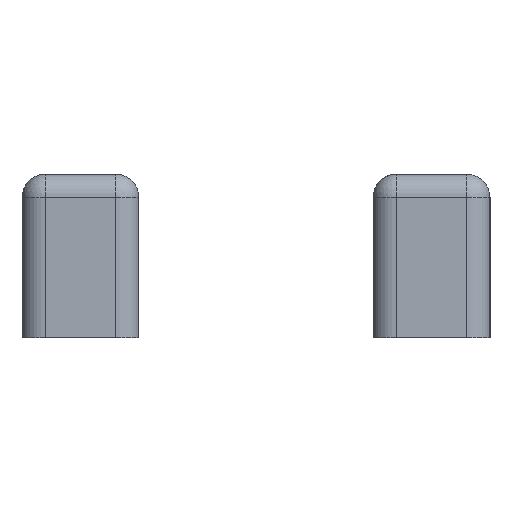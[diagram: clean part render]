
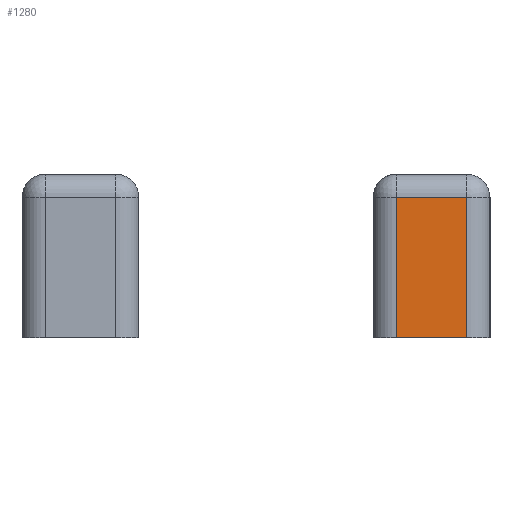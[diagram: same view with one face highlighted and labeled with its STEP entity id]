
A CAD part, left-side view. The second image highlights one B-rep face of the part: STEP entity #1280.
In plain terms, the highlighted planar face has unit normal (-1, 0, 0).
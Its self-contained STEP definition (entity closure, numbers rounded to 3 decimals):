
#50=PLANE('',#1419);
#94=LINE('',#2045,#190);
#107=LINE('',#2146,#203);
#109=LINE('',#2149,#205);
#110=LINE('',#2151,#206);
#190=VECTOR('',#1617,10.);
#203=VECTOR('',#1682,10.);
#205=VECTOR('',#1686,10.);
#206=VECTOR('',#1689,10.);
#332=FACE_OUTER_BOUND('',#414,.T.);
#414=EDGE_LOOP('',(#1037,#1038,#1039,#1040));
#579=VERTEX_POINT('',#2042);
#580=VERTEX_POINT('',#2044);
#582=VERTEX_POINT('',#2052);
#592=VERTEX_POINT('',#2100);
#710=EDGE_CURVE('',#579,#580,#94,.T.);
#741=EDGE_CURVE('',#580,#592,#107,.T.);
#743=EDGE_CURVE('',#592,#582,#109,.T.);
#744=EDGE_CURVE('',#582,#579,#110,.T.);
#1037=ORIENTED_EDGE('',*,*,#741,.F.);
#1038=ORIENTED_EDGE('',*,*,#710,.F.);
#1039=ORIENTED_EDGE('',*,*,#744,.F.);
#1040=ORIENTED_EDGE('',*,*,#743,.F.);
#1280=ADVANCED_FACE('',(#332),#50,.F.);
#1419=AXIS2_PLACEMENT_3D('',#2170,#1720,#1721);
#1617=DIRECTION('',(0.,1.,0.));
#1682=DIRECTION('',(0.,0.,1.));
#1686=DIRECTION('',(0.,-1.,0.));
#1689=DIRECTION('',(0.,0.,-1.));
#1720=DIRECTION('center_axis',(1.,0.,0.));
#1721=DIRECTION('ref_axis',(0.,0.,1.));
#2042=CARTESIAN_POINT('',(0.,-4.,0.));
#2044=CARTESIAN_POINT('',(0.,-1.,0.));
#2045=CARTESIAN_POINT('',(0.,-2.5,0.));
#2052=CARTESIAN_POINT('',(0.,-4.,6.));
#2100=CARTESIAN_POINT('',(0.,-1.,6.));
#2146=CARTESIAN_POINT('',(0.,-1.,3.5));
#2149=CARTESIAN_POINT('',(0.,-2.5,6.));
#2151=CARTESIAN_POINT('',(0.,-4.,3.5));
#2170=CARTESIAN_POINT('Origin',(0.,-2.5,3.5));
